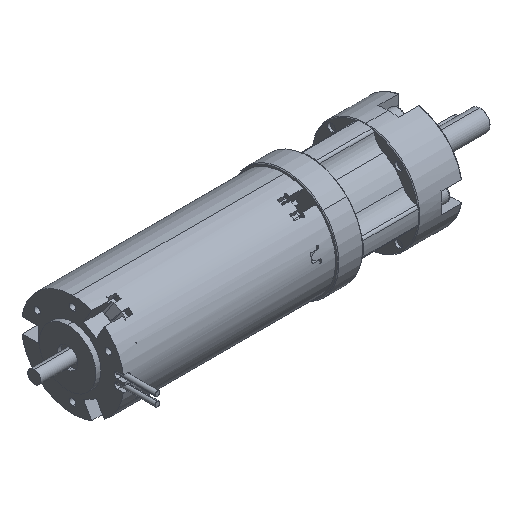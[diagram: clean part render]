
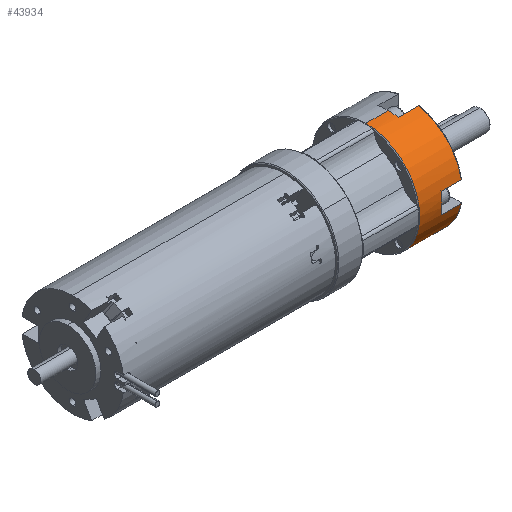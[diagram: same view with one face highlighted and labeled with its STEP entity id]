
A CAD part, isometric view. The second image highlights one B-rep face of the part: STEP entity #43934.
In plain terms, the highlighted cylindrical face has radius 21 mm (diameter 42 mm), a partial arc.
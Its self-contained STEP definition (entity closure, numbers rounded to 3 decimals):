
#1647 = ORIENTED_EDGE ( 'NONE', *, *, #52424, .F. ) ;
#1697 = CARTESIAN_POINT ( 'NONE',  ( 9., -4., -20.616 ) ) ;
#1918 = DIRECTION ( 'NONE',  ( 0., 0., -1. ) ) ;
#1944 = AXIS2_PLACEMENT_3D ( 'NONE', #56261, #32032, #12318 ) ;
#2819 = CARTESIAN_POINT ( 'NONE',  ( 9., -20.616, -4. ) ) ;
#3301 = AXIS2_PLACEMENT_3D ( 'NONE', #21585, #55564, #26477 ) ;
#3951 = VERTEX_POINT ( 'NONE', #52596 ) ;
#4115 = VERTEX_POINT ( 'NONE', #57523 ) ;
#4237 = CARTESIAN_POINT ( 'NONE',  ( -3.37, -20.616, 4. ) ) ;
#4621 = AXIS2_PLACEMENT_3D ( 'NONE', #42511, #10062, #47267 ) ;
#5965 = LINE ( 'NONE', #4237, #10528 ) ;
#6123 = CARTESIAN_POINT ( 'NONE',  ( 9., -20.616, 4. ) ) ;
#6536 = EDGE_CURVE ( 'NONE', #13204, #35750, #39643, .T. ) ;
#7448 = CIRCLE ( 'NONE', #3301, 21. ) ;
#7690 = CARTESIAN_POINT ( 'NONE',  ( -3.37, 0., -21. ) ) ;
#7758 = VECTOR ( 'NONE', #56280, 1000. ) ;
#7987 = EDGE_CURVE ( 'NONE', #3951, #34984, #47451, .T. ) ;
#8103 = ORIENTED_EDGE ( 'NONE', *, *, #12708, .T. ) ;
#8356 = VECTOR ( 'NONE', #27243, 1000. ) ;
#9115 = DIRECTION ( 'NONE',  ( 1., 0., 0. ) ) ;
#9797 = ORIENTED_EDGE ( 'NONE', *, *, #48235, .T. ) ;
#10062 = DIRECTION ( 'NONE',  ( -1., 0., 0. ) ) ;
#10383 = CARTESIAN_POINT ( 'NONE',  ( 16.9, 0., 0. ) ) ;
#10528 = VECTOR ( 'NONE', #23774, 1000. ) ;
#11714 = EDGE_CURVE ( 'NONE', #14964, #19725, #5965, .T. ) ;
#12318 = DIRECTION ( 'NONE',  ( 0., 0., -1. ) ) ;
#12652 = DIRECTION ( 'NONE',  ( 1., 0., 0. ) ) ;
#12708 = EDGE_CURVE ( 'NONE', #28343, #3951, #21320, .T. ) ;
#13091 = AXIS2_PLACEMENT_3D ( 'NONE', #10383, #61166, #53946 ) ;
#13204 = VERTEX_POINT ( 'NONE', #45877 ) ;
#13794 = VECTOR ( 'NONE', #12652, 1000. ) ;
#14050 = CIRCLE ( 'NONE', #48190, 21. ) ;
#14964 = VERTEX_POINT ( 'NONE', #6123 ) ;
#16235 = ORIENTED_EDGE ( 'NONE', *, *, #17165, .T. ) ;
#16762 = ORIENTED_EDGE ( 'NONE', *, *, #6536, .T. ) ;
#17165 = EDGE_CURVE ( 'NONE', #35750, #31040, #25989, .T. ) ;
#17213 = DIRECTION ( 'NONE',  ( -1., 0., 0. ) ) ;
#17499 = VERTEX_POINT ( 'NONE', #59351 ) ;
#17777 = CIRCLE ( 'NONE', #32938, 21. ) ;
#17798 = DIRECTION ( 'NONE',  ( -1., 0., 0. ) ) ;
#19725 = VERTEX_POINT ( 'NONE', #53900 ) ;
#20351 = CARTESIAN_POINT ( 'NONE',  ( 0.3, 0., 0. ) ) ;
#21320 = LINE ( 'NONE', #7690, #8356 ) ;
#21585 = CARTESIAN_POINT ( 'NONE',  ( 9., 0., 0. ) ) ;
#22342 = ORIENTED_EDGE ( 'NONE', *, *, #56068, .T. ) ;
#23774 = DIRECTION ( 'NONE',  ( 1., 0., 0. ) ) ;
#25247 = DIRECTION ( 'NONE',  ( 0., 0., -1. ) ) ;
#25989 = LINE ( 'NONE', #46889, #35869 ) ;
#26477 = DIRECTION ( 'NONE',  ( 0., 0., -1. ) ) ;
#27243 = DIRECTION ( 'NONE',  ( 1., 0., 0. ) ) ;
#28343 = VERTEX_POINT ( 'NONE', #42289 ) ;
#30176 = ORIENTED_EDGE ( 'NONE', *, *, #39067, .T. ) ;
#30978 = ORIENTED_EDGE ( 'NONE', *, *, #34057, .T. ) ;
#30981 = DIRECTION ( 'NONE',  ( -1., 0., 0. ) ) ;
#31040 = VERTEX_POINT ( 'NONE', #2819 ) ;
#32032 = DIRECTION ( 'NONE',  ( 1., 0., 0. ) ) ;
#32803 = CARTESIAN_POINT ( 'NONE',  ( 16.9, -20.616, -4. ) ) ;
#32938 = AXIS2_PLACEMENT_3D ( 'NONE', #46312, #17213, #51224 ) ;
#34057 = EDGE_CURVE ( 'NONE', #34984, #13204, #39622, .T. ) ;
#34984 = VERTEX_POINT ( 'NONE', #1697 ) ;
#35750 = VERTEX_POINT ( 'NONE', #32803 ) ;
#35869 = VECTOR ( 'NONE', #17798, 1000. ) ;
#38661 = EDGE_CURVE ( 'NONE', #55771, #4115, #57911, .T. ) ;
#39067 = EDGE_CURVE ( 'NONE', #17499, #28343, #52587, .T. ) ;
#39400 = ORIENTED_EDGE ( 'NONE', *, *, #7987, .T. ) ;
#39604 = VERTEX_POINT ( 'NONE', #51119 ) ;
#39622 = LINE ( 'NONE', #61027, #13794 ) ;
#39643 = CIRCLE ( 'NONE', #13091, 21. ) ;
#42289 = CARTESIAN_POINT ( 'NONE',  ( 0.3, 0., -21. ) ) ;
#42511 = CARTESIAN_POINT ( 'NONE',  ( 9., 0., 0. ) ) ;
#43934 = ADVANCED_FACE ( 'NONE', ( #60445 ), #48228, .T. ) ;
#44915 = EDGE_LOOP ( 'NONE', ( #1647, #30176, #8103, #39400, #30978, #16762, #16235, #58821, #56618, #22342, #46766, #9797 ) ) ;
#45877 = CARTESIAN_POINT ( 'NONE',  ( 16.9, -4., -20.616 ) ) ;
#46312 = CARTESIAN_POINT ( 'NONE',  ( 16.9, 0., 0. ) ) ;
#46766 = ORIENTED_EDGE ( 'NONE', *, *, #38661, .T. ) ;
#46889 = CARTESIAN_POINT ( 'NONE',  ( -3.37, -20.616, -4. ) ) ;
#47108 = EDGE_CURVE ( 'NONE', #31040, #14964, #7448, .T. ) ;
#47267 = DIRECTION ( 'NONE',  ( 0., 0., -1. ) ) ;
#47451 = CIRCLE ( 'NONE', #4621, 21. ) ;
#48190 = AXIS2_PLACEMENT_3D ( 'NONE', #60044, #30981, #1918 ) ;
#48228 = CYLINDRICAL_SURFACE ( 'NONE', #1944, 21. ) ;
#48235 = EDGE_CURVE ( 'NONE', #4115, #39604, #14050, .T. ) ;
#48277 = CARTESIAN_POINT ( 'NONE',  ( 16.9, -4., 20.616 ) ) ;
#51119 = CARTESIAN_POINT ( 'NONE',  ( 9., 0., 21. ) ) ;
#51224 = DIRECTION ( 'NONE',  ( 0., 0., -1. ) ) ;
#51362 = VECTOR ( 'NONE', #9115, 1000. ) ;
#51429 = CARTESIAN_POINT ( 'NONE',  ( -3.37, -4., 20.616 ) ) ;
#52424 = EDGE_CURVE ( 'NONE', #17499, #39604, #52872, .T. ) ;
#52587 = CIRCLE ( 'NONE', #60228, 21. ) ;
#52596 = CARTESIAN_POINT ( 'NONE',  ( 9., 0., -21. ) ) ;
#52872 = LINE ( 'NONE', #62667, #51362 ) ;
#53900 = CARTESIAN_POINT ( 'NONE',  ( 16.9, -20.616, 4. ) ) ;
#53946 = DIRECTION ( 'NONE',  ( 0., 0., -1. ) ) ;
#54356 = DIRECTION ( 'NONE',  ( 1., 0., 0. ) ) ;
#55564 = DIRECTION ( 'NONE',  ( -1., 0., 0. ) ) ;
#55771 = VERTEX_POINT ( 'NONE', #48277 ) ;
#56068 = EDGE_CURVE ( 'NONE', #19725, #55771, #17777, .T. ) ;
#56261 = CARTESIAN_POINT ( 'NONE',  ( -3.37, 0., 0. ) ) ;
#56280 = DIRECTION ( 'NONE',  ( -1., 0., 0. ) ) ;
#56618 = ORIENTED_EDGE ( 'NONE', *, *, #11714, .T. ) ;
#57523 = CARTESIAN_POINT ( 'NONE',  ( 9., -4., 20.616 ) ) ;
#57911 = LINE ( 'NONE', #51429, #7758 ) ;
#58821 = ORIENTED_EDGE ( 'NONE', *, *, #47108, .T. ) ;
#59351 = CARTESIAN_POINT ( 'NONE',  ( 0.3, 0., 21. ) ) ;
#60044 = CARTESIAN_POINT ( 'NONE',  ( 9., 0., 0. ) ) ;
#60228 = AXIS2_PLACEMENT_3D ( 'NONE', #20351, #54356, #25247 ) ;
#60445 = FACE_OUTER_BOUND ( 'NONE', #44915, .T. ) ;
#61027 = CARTESIAN_POINT ( 'NONE',  ( -3.37, -4., -20.616 ) ) ;
#61166 = DIRECTION ( 'NONE',  ( -1., 0., 0. ) ) ;
#62667 = CARTESIAN_POINT ( 'NONE',  ( -3.37, 0., 21. ) ) ;
